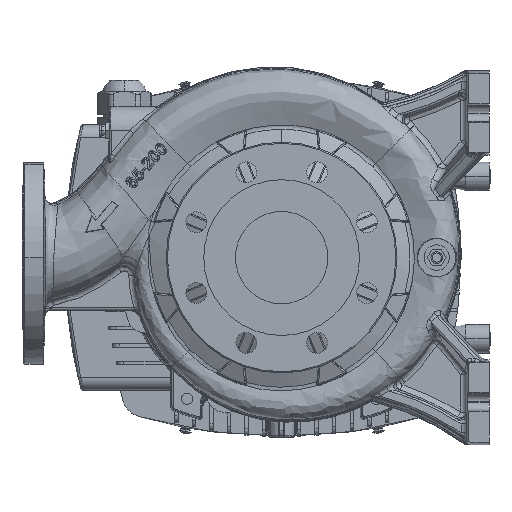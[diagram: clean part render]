
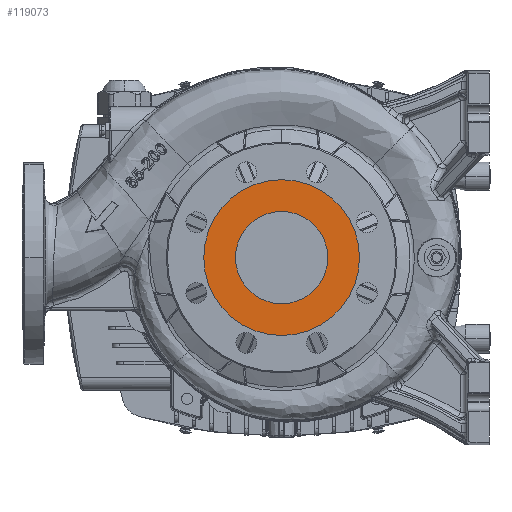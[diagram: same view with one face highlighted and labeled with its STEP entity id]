
A CAD part, left-side view. The second image highlights one B-rep face of the part: STEP entity #119073.
In plain terms, the highlighted planar face has unit normal (-1, 0, 0).
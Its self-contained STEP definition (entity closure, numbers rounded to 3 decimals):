
#2079 = CIRCLE ( 'NONE', #89254, 67.5 ) ;
#11075 = CIRCLE ( 'NONE', #167230, 40. ) ;
#17498 = CARTESIAN_POINT ( 'NONE',  ( -263.5, 0., 0. ) ) ;
#19110 = VERTEX_POINT ( 'NONE', #27266 ) ;
#19958 = CARTESIAN_POINT ( 'NONE',  ( -263.5, 0., 0. ) ) ;
#22081 = CARTESIAN_POINT ( 'NONE',  ( -263.5, 0., 0. ) ) ;
#25146 = ORIENTED_EDGE ( 'NONE', *, *, #41483, .F. ) ;
#27266 = CARTESIAN_POINT ( 'NONE',  ( -263.5, 40., 0. ) ) ;
#32332 = DIRECTION ( 'NONE',  ( 1., 0., 0. ) ) ;
#33569 = AXIS2_PLACEMENT_3D ( 'NONE', #17498, #32332, #183882 ) ;
#40136 = DIRECTION ( 'NONE',  ( 0., 0., 1. ) ) ;
#41483 = EDGE_CURVE ( 'NONE', #149128, #218892, #2079, .T. ) ;
#59460 = DIRECTION ( 'NONE',  ( -1., 0., 0. ) ) ;
#68433 = ORIENTED_EDGE ( 'NONE', *, *, #75631, .T. ) ;
#72280 = DIRECTION ( 'NONE',  ( 1., 0., 0. ) ) ;
#75631 = EDGE_CURVE ( 'NONE', #19110, #97838, #11075, .T. ) ;
#89254 = AXIS2_PLACEMENT_3D ( 'NONE', #103257, #89539, #192972 ) ;
#89317 = DIRECTION ( 'NONE',  ( 0., -1., 0. ) ) ;
#89539 = DIRECTION ( 'NONE',  ( 1., 0., 0. ) ) ;
#97838 = VERTEX_POINT ( 'NONE', #136639 ) ;
#103257 = CARTESIAN_POINT ( 'NONE',  ( -263.5, 0., 0. ) ) ;
#119073 = ADVANCED_FACE ( 'NONE', ( #161798, #126537 ), #212951, .T. ) ;
#119116 = AXIS2_PLACEMENT_3D ( 'NONE', #22081, #211947, #210836 ) ;
#126537 = FACE_BOUND ( 'NONE', #133033, .T. ) ;
#131565 = CIRCLE ( 'NONE', #33569, 67.5 ) ;
#133033 = EDGE_LOOP ( 'NONE', ( #168052, #68433 ) ) ;
#136639 = CARTESIAN_POINT ( 'NONE',  ( -263.5, -40., 0. ) ) ;
#146318 = EDGE_CURVE ( 'NONE', #97838, #19110, #159077, .T. ) ;
#148458 = ORIENTED_EDGE ( 'NONE', *, *, #220061, .F. ) ;
#149128 = VERTEX_POINT ( 'NONE', #149793 ) ;
#149527 = AXIS2_PLACEMENT_3D ( 'NONE', #195885, #59460, #40136 ) ;
#149793 = CARTESIAN_POINT ( 'NONE',  ( -263.5, -67.5, 0. ) ) ;
#159077 = CIRCLE ( 'NONE', #119116, 40. ) ;
#161798 = FACE_OUTER_BOUND ( 'NONE', #162413, .T. ) ;
#162413 = EDGE_LOOP ( 'NONE', ( #148458, #25146 ) ) ;
#164263 = CARTESIAN_POINT ( 'NONE',  ( -263.5, 67.5, 0. ) ) ;
#167230 = AXIS2_PLACEMENT_3D ( 'NONE', #19958, #72280, #89317 ) ;
#168052 = ORIENTED_EDGE ( 'NONE', *, *, #146318, .T. ) ;
#183882 = DIRECTION ( 'NONE',  ( 0., 1., 0. ) ) ;
#192972 = DIRECTION ( 'NONE',  ( 0., 1., 0. ) ) ;
#195885 = CARTESIAN_POINT ( 'NONE',  ( -263.5, 0., 0. ) ) ;
#210836 = DIRECTION ( 'NONE',  ( 0., -1., 0. ) ) ;
#211947 = DIRECTION ( 'NONE',  ( 1., 0., 0. ) ) ;
#212951 = PLANE ( 'NONE',  #149527 ) ;
#218892 = VERTEX_POINT ( 'NONE', #164263 ) ;
#220061 = EDGE_CURVE ( 'NONE', #218892, #149128, #131565, .T. ) ;
